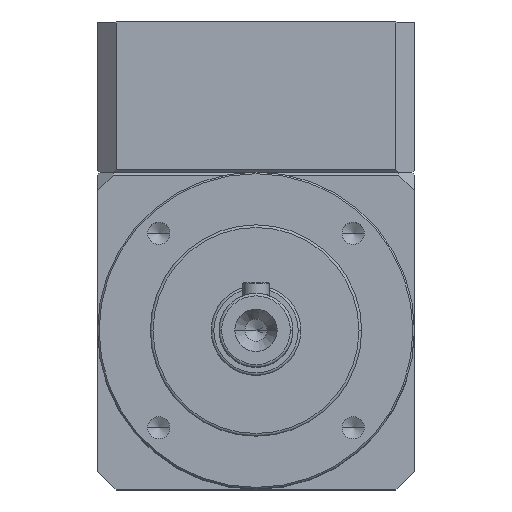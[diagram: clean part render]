
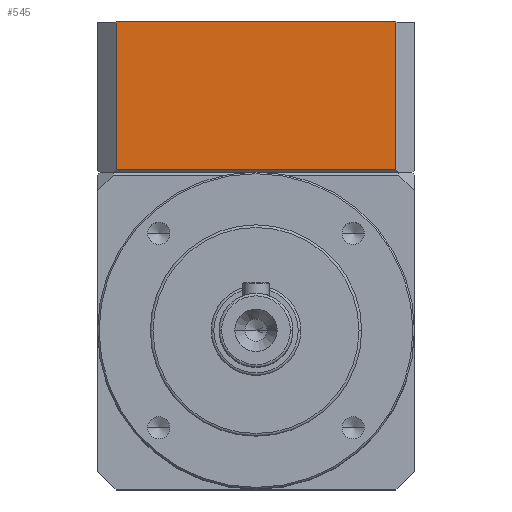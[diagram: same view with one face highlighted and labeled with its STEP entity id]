
A CAD part, top view. The second image highlights one B-rep face of the part: STEP entity #545.
In plain terms, the highlighted planar face has unit normal (0, 0, 1).
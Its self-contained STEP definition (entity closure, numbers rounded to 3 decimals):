
#74 = DIRECTION ( 'NONE',  ( 0., 0., -1. ) ) ;
#545 = ADVANCED_FACE ( 'NONE', ( #3770 ), #6166, .F. ) ;
#715 = CARTESIAN_POINT ( 'NONE',  ( -60.092, 39.076, 133.5 ) ) ;
#830 = DIRECTION ( 'NONE',  ( 0., 1., 0. ) ) ;
#993 = EDGE_CURVE ( 'NONE', #7249, #3497, #2728, .T. ) ;
#1042 = CARTESIAN_POINT ( 'NONE',  ( -7.092, 11.076, 133.5 ) ) ;
#1050 = CARTESIAN_POINT ( 'NONE',  ( -60.092, 39.076, 133.5 ) ) ;
#1167 = EDGE_CURVE ( 'NONE', #4793, #3497, #7058, .T. ) ;
#1310 = DIRECTION ( 'NONE',  ( 0., -1., 0. ) ) ;
#1520 = CARTESIAN_POINT ( 'NONE',  ( -7.092, 39.076, 133.5 ) ) ;
#1587 = EDGE_CURVE ( 'NONE', #7249, #1676, #3125, .T. ) ;
#1641 = VECTOR ( 'NONE', #2064, 1000. ) ;
#1676 = VERTEX_POINT ( 'NONE', #2770 ) ;
#1802 = DIRECTION ( 'NONE',  ( 0., -1., 0. ) ) ;
#2064 = DIRECTION ( 'NONE',  ( 1., 0., 0. ) ) ;
#2728 = LINE ( 'NONE', #3907, #1641 ) ;
#2770 = CARTESIAN_POINT ( 'NONE',  ( -60.092, 11.076, 133.5 ) ) ;
#2846 = VECTOR ( 'NONE', #1802, 1000. ) ;
#3125 = LINE ( 'NONE', #715, #2846 ) ;
#3497 = VERTEX_POINT ( 'NONE', #5980 ) ;
#3501 = DIRECTION ( 'NONE',  ( 1., 0., 0. ) ) ;
#3663 = LINE ( 'NONE', #7808, #6295 ) ;
#3770 = FACE_OUTER_BOUND ( 'NONE', #5567, .T. ) ;
#3907 = CARTESIAN_POINT ( 'NONE',  ( -63.592, 39.076, 133.5 ) ) ;
#3996 = AXIS2_PLACEMENT_3D ( 'NONE', #4835, #74, #1310 ) ;
#4467 = ORIENTED_EDGE ( 'NONE', *, *, #6736, .T. ) ;
#4536 = ORIENTED_EDGE ( 'NONE', *, *, #993, .F. ) ;
#4793 = VERTEX_POINT ( 'NONE', #1042 ) ;
#4835 = CARTESIAN_POINT ( 'NONE',  ( -63.592, 39.076, 133.5 ) ) ;
#5567 = EDGE_LOOP ( 'NONE', ( #5804, #4467, #7618, #4536 ) ) ;
#5804 = ORIENTED_EDGE ( 'NONE', *, *, #1587, .T. ) ;
#5980 = CARTESIAN_POINT ( 'NONE',  ( -7.092, 39.076, 133.5 ) ) ;
#6166 = PLANE ( 'NONE',  #3996 ) ;
#6295 = VECTOR ( 'NONE', #3501, 1000. ) ;
#6615 = VECTOR ( 'NONE', #830, 1000. ) ;
#6736 = EDGE_CURVE ( 'NONE', #1676, #4793, #3663, .T. ) ;
#7058 = LINE ( 'NONE', #1520, #6615 ) ;
#7249 = VERTEX_POINT ( 'NONE', #1050 ) ;
#7618 = ORIENTED_EDGE ( 'NONE', *, *, #1167, .T. ) ;
#7808 = CARTESIAN_POINT ( 'NONE',  ( -63.592, 11.076, 133.5 ) ) ;
